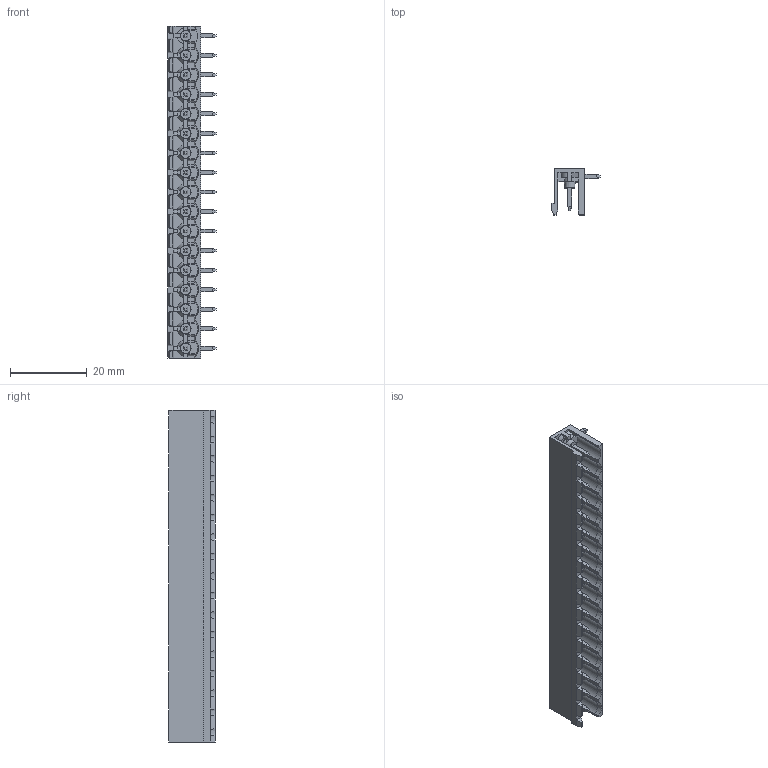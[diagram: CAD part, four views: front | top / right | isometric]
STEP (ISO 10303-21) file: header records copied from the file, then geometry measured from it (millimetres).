
FILE_DESCRIPTION (( 'STEP AP203' ), '1' );
FILE_NAME ('BR8MN1-17.STEP', '2020-03-18T03:15:22', ( '' ), ( '' ), 'SwSTEP 2.0', 'SolidWorks 2019', '' );
FILE_SCHEMA (( 'CONFIG_CONTROL_DESIGN' ));
Length unit declared in the file: millimetre
Products named in the file (1): BR8MN1-17
Bounding box: 12.5 x 12 x 86.36 mm (x, y, z)
Volume: 3296.9 mm3; surface area: 7347.3 mm2
Topology: 1 solids, 1 shells, 1430 faces, 3726 edges, 2298 vertices
Faces by surface type: plane 1228, cylinder 86, cone 82, sphere 34
Entity records: 42488 total; most frequent: CARTESIAN_POINT 8117, ORIENTED_EDGE 7316, DIRECTION 6697, EDGE_CURVE 3658, LINE 3121, VECTOR 3121, VERTEX_POINT 2264, AXIS2_PLACEMENT_3D 1788
